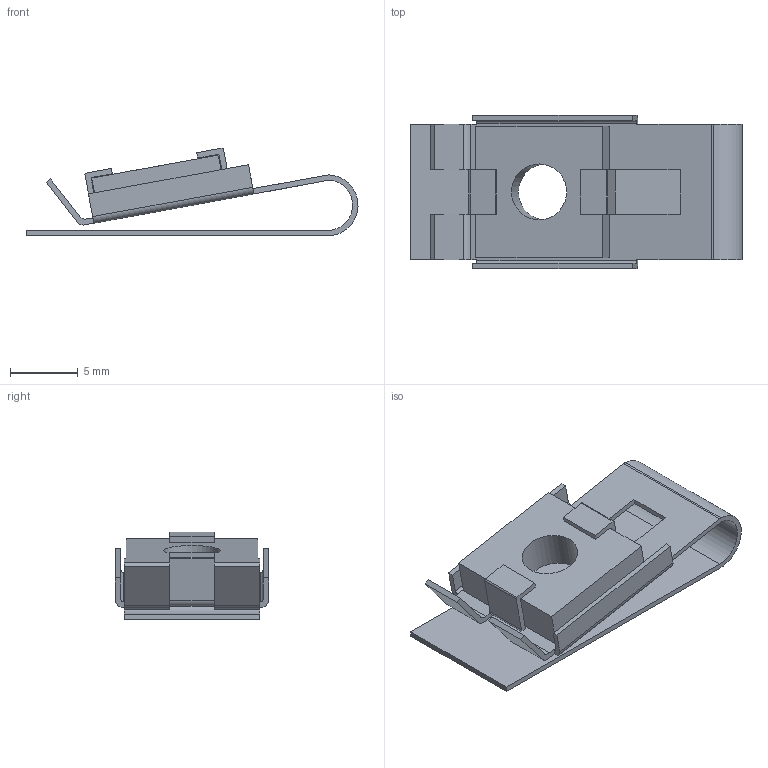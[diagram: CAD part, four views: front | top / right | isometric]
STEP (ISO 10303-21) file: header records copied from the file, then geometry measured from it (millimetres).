
FILE_DESCRIPTION(/* description */ ('Unknown'),/* implementation_level */ '2;1');
FILE_NAME(/* name */ 'FBR-01626-CP-A1',/* time_stamp */ '2024-04-22T09:01:21+08:00',/* author */ ('Unknown'),/* organization */ ('Unknown'),/* preprocessor_version */ 'ST-DEVELOPER v16.7',/* originating_system */ 'Solid Edge',/* authorisation */ 'Unknown');
FILE_SCHEMA (('AUTOMOTIVE_DESIGN {1 0 10303 214 3 1 1}'));
Length unit declared in the file: millimetre
Products named in the file (1): FBR-01626-CP-A1
Bounding box: 24.5 x 11.3 x 6.48 mm (x, y, z)
Volume: 416.8 mm3; surface area: 1370.4 mm2
Topology: 2 solids, 2 shells, 71 faces, 199 edges, 132 vertices
Faces by surface type: plane 50, cylinder 21
Full cylindrical faces by diameter (mm): 4.134 x1, 6.9 x2
Entity records: 2344 total; most frequent: CARTESIAN_POINT 396, ORIENTED_EDGE 388, DIRECTION 384, EDGE_CURVE 194, LINE 148, VECTOR 148, VERTEX_POINT 130, AXIS2_PLACEMENT_3D 118
